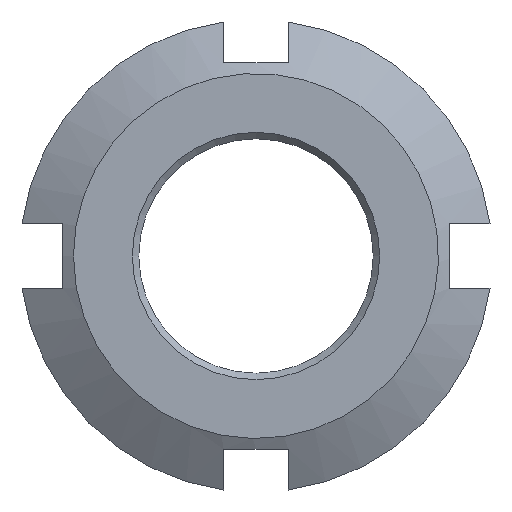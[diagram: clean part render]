
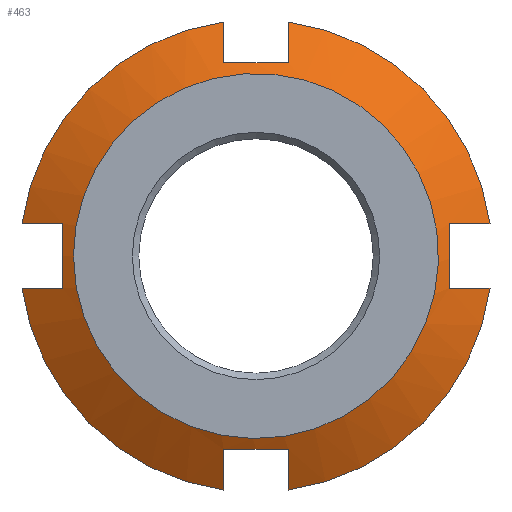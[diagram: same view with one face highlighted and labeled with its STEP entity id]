
A CAD part, left-side view. The second image highlights one B-rep face of the part: STEP entity #463.
In plain terms, the highlighted conical face has half-angle 60 degrees and reference radius 9.75 mm.
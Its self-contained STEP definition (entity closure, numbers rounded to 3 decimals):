
#15=(
BOUNDED_CURVE()
B_SPLINE_CURVE(2,(#701,#702,#703),.UNSPECIFIED.,.F.,.F.)
B_SPLINE_CURVE_WITH_KNOTS((3,3),(0.,0.218),.UNSPECIFIED.)
CURVE()
GEOMETRIC_REPRESENTATION_ITEM()
RATIONAL_B_SPLINE_CURVE((1.,1.004,1.))
REPRESENTATION_ITEM('')
);
#16=(
BOUNDED_CURVE()
B_SPLINE_CURVE(2,(#733,#734,#735),.UNSPECIFIED.,.F.,.F.)
B_SPLINE_CURVE_WITH_KNOTS((3,3),(0.,0.218),.UNSPECIFIED.)
CURVE()
GEOMETRIC_REPRESENTATION_ITEM()
RATIONAL_B_SPLINE_CURVE((1.,1.004,1.))
REPRESENTATION_ITEM('')
);
#17=(
BOUNDED_CURVE()
B_SPLINE_CURVE(2,(#765,#766,#767),.UNSPECIFIED.,.F.,.F.)
B_SPLINE_CURVE_WITH_KNOTS((3,3),(0.,0.218),.UNSPECIFIED.)
CURVE()
GEOMETRIC_REPRESENTATION_ITEM()
RATIONAL_B_SPLINE_CURVE((1.,1.004,1.))
REPRESENTATION_ITEM('')
);
#18=(
BOUNDED_CURVE()
B_SPLINE_CURVE(2,(#797,#798,#799),.UNSPECIFIED.,.F.,.F.)
B_SPLINE_CURVE_WITH_KNOTS((3,3),(0.,0.218),.UNSPECIFIED.)
CURVE()
GEOMETRIC_REPRESENTATION_ITEM()
RATIONAL_B_SPLINE_CURVE((1.,1.004,1.))
REPRESENTATION_ITEM('')
);
#19=(
BOUNDED_CURVE()
B_SPLINE_CURVE(2,(#805,#806,#807),.UNSPECIFIED.,.F.,.F.)
B_SPLINE_CURVE_WITH_KNOTS((3,3),(0.,0.218),.UNSPECIFIED.)
CURVE()
GEOMETRIC_REPRESENTATION_ITEM()
RATIONAL_B_SPLINE_CURVE((1.,1.004,1.))
REPRESENTATION_ITEM('')
);
#20=(
BOUNDED_CURVE()
B_SPLINE_CURVE(2,(#810,#811,#812),.UNSPECIFIED.,.F.,.F.)
B_SPLINE_CURVE_WITH_KNOTS((3,3),(0.475,0.811),
 .UNSPECIFIED.)
CURVE()
GEOMETRIC_REPRESENTATION_ITEM()
RATIONAL_B_SPLINE_CURVE((1.104,1.119,1.104))
REPRESENTATION_ITEM('')
);
#21=(
BOUNDED_CURVE()
B_SPLINE_CURVE(2,(#814,#815,#816),.UNSPECIFIED.,.F.,.F.)
B_SPLINE_CURVE_WITH_KNOTS((3,3),(0.475,0.811),
 .UNSPECIFIED.)
CURVE()
GEOMETRIC_REPRESENTATION_ITEM()
RATIONAL_B_SPLINE_CURVE((1.104,1.119,1.104))
REPRESENTATION_ITEM('')
);
#22=(
BOUNDED_CURVE()
B_SPLINE_CURVE(2,(#821,#822,#823),.UNSPECIFIED.,.F.,.F.)
B_SPLINE_CURVE_WITH_KNOTS((3,3),(0.,0.218),.UNSPECIFIED.)
CURVE()
GEOMETRIC_REPRESENTATION_ITEM()
RATIONAL_B_SPLINE_CURVE((1.,1.004,1.))
REPRESENTATION_ITEM('')
);
#23=(
BOUNDED_CURVE()
B_SPLINE_CURVE(2,(#826,#827,#828),.UNSPECIFIED.,.F.,.F.)
B_SPLINE_CURVE_WITH_KNOTS((3,3),(0.475,0.811),
 .UNSPECIFIED.)
CURVE()
GEOMETRIC_REPRESENTATION_ITEM()
RATIONAL_B_SPLINE_CURVE((1.104,1.119,1.104))
REPRESENTATION_ITEM('')
);
#24=(
BOUNDED_CURVE()
B_SPLINE_CURVE(2,(#841,#842,#843),.UNSPECIFIED.,.F.,.F.)
B_SPLINE_CURVE_WITH_KNOTS((3,3),(0.08,0.291),
 .UNSPECIFIED.)
CURVE()
GEOMETRIC_REPRESENTATION_ITEM()
RATIONAL_B_SPLINE_CURVE((1.003,1.006,1.))
REPRESENTATION_ITEM('')
);
#25=(
BOUNDED_CURVE()
B_SPLINE_CURVE(2,(#847,#848,#849),.UNSPECIFIED.,.F.,.F.)
B_SPLINE_CURVE_WITH_KNOTS((3,3),(0.475,0.811),
 .UNSPECIFIED.)
CURVE()
GEOMETRIC_REPRESENTATION_ITEM()
RATIONAL_B_SPLINE_CURVE((1.104,1.119,1.104))
REPRESENTATION_ITEM('')
);
#26=(
BOUNDED_CURVE()
B_SPLINE_CURVE(2,(#852,#853,#854),.UNSPECIFIED.,.F.,.F.)
B_SPLINE_CURVE_WITH_KNOTS((3,3),(0.,0.211),.UNSPECIFIED.)
CURVE()
GEOMETRIC_REPRESENTATION_ITEM()
RATIONAL_B_SPLINE_CURVE((1.,1.006,1.003))
REPRESENTATION_ITEM('')
);
#119=FACE_BOUND('',#177,.T.);
#145=FACE_OUTER_BOUND('',#176,.T.);
#176=EDGE_LOOP('',(#418,#419,#420,#421,#422,#423,#424,#425,#426,#427,#428,
#429,#430,#431,#432,#433));
#177=EDGE_LOOP('',(#434));
#181=CIRCLE('',#472,8.5);
#191=CIRCLE('',#498,11.);
#192=CIRCLE('',#500,11.);
#193=CIRCLE('',#502,11.);
#194=CIRCLE('',#507,11.);
#198=VERTEX_POINT('',#635);
#218=VERTEX_POINT('',#698);
#219=VERTEX_POINT('',#700);
#222=VERTEX_POINT('',#730);
#223=VERTEX_POINT('',#732);
#226=VERTEX_POINT('',#762);
#227=VERTEX_POINT('',#764);
#230=VERTEX_POINT('',#794);
#231=VERTEX_POINT('',#796);
#232=VERTEX_POINT('',#802);
#233=VERTEX_POINT('',#804);
#234=VERTEX_POINT('',#818);
#235=VERTEX_POINT('',#820);
#236=VERTEX_POINT('',#830);
#237=VERTEX_POINT('',#834);
#238=VERTEX_POINT('',#840);
#239=VERTEX_POINT('',#846);
#243=EDGE_CURVE('',#198,#198,#181,.T.);
#265=EDGE_CURVE('',#219,#218,#15,.T.);
#271=EDGE_CURVE('',#223,#222,#16,.T.);
#277=EDGE_CURVE('',#227,#226,#17,.T.);
#283=EDGE_CURVE('',#231,#230,#18,.T.);
#286=EDGE_CURVE('',#233,#232,#19,.T.);
#288=EDGE_CURVE('',#222,#233,#20,.T.);
#289=EDGE_CURVE('',#226,#231,#21,.T.);
#291=EDGE_CURVE('',#235,#234,#22,.T.);
#293=EDGE_CURVE('',#218,#235,#23,.T.);
#294=EDGE_CURVE('',#236,#219,#191,.T.);
#297=EDGE_CURVE('',#230,#237,#192,.T.);
#298=EDGE_CURVE('',#234,#223,#193,.T.);
#299=EDGE_CURVE('',#238,#236,#24,.T.);
#301=EDGE_CURVE('',#239,#238,#25,.T.);
#303=EDGE_CURVE('',#237,#239,#26,.T.);
#304=EDGE_CURVE('',#232,#227,#194,.T.);
#418=ORIENTED_EDGE('',*,*,#286,.T.);
#419=ORIENTED_EDGE('',*,*,#304,.T.);
#420=ORIENTED_EDGE('',*,*,#277,.T.);
#421=ORIENTED_EDGE('',*,*,#289,.T.);
#422=ORIENTED_EDGE('',*,*,#283,.T.);
#423=ORIENTED_EDGE('',*,*,#297,.T.);
#424=ORIENTED_EDGE('',*,*,#303,.T.);
#425=ORIENTED_EDGE('',*,*,#301,.T.);
#426=ORIENTED_EDGE('',*,*,#299,.T.);
#427=ORIENTED_EDGE('',*,*,#294,.T.);
#428=ORIENTED_EDGE('',*,*,#265,.T.);
#429=ORIENTED_EDGE('',*,*,#293,.T.);
#430=ORIENTED_EDGE('',*,*,#291,.T.);
#431=ORIENTED_EDGE('',*,*,#298,.T.);
#432=ORIENTED_EDGE('',*,*,#271,.T.);
#433=ORIENTED_EDGE('',*,*,#288,.T.);
#434=ORIENTED_EDGE('',*,*,#243,.T.);
#437=CONICAL_SURFACE('',#508,9.75,60.);
#463=ADVANCED_FACE('',(#145,#119),#437,.T.);
#472=AXIS2_PLACEMENT_3D('',#636,#523,#524);
#498=AXIS2_PLACEMENT_3D('',#831,#599,#600);
#500=AXIS2_PLACEMENT_3D('',#836,#605,#606);
#502=AXIS2_PLACEMENT_3D('',#838,#609,#610);
#507=AXIS2_PLACEMENT_3D('',#856,#621,#622);
#508=AXIS2_PLACEMENT_3D('',#857,#623,#624);
#523=DIRECTION('center_axis',(1.,0.,0.));
#524=DIRECTION('ref_axis',(0.,-1.,0.));
#599=DIRECTION('center_axis',(-1.,0.,0.));
#600=DIRECTION('ref_axis',(0.,-1.,0.));
#605=DIRECTION('center_axis',(-1.,0.,0.));
#606=DIRECTION('ref_axis',(0.,-1.,0.));
#609=DIRECTION('center_axis',(-1.,0.,0.));
#610=DIRECTION('ref_axis',(0.,-1.,0.));
#621=DIRECTION('center_axis',(-1.,0.,0.));
#622=DIRECTION('ref_axis',(0.,-1.,0.));
#623=DIRECTION('center_axis',(1.,0.,0.));
#624=DIRECTION('ref_axis',(0.,-1.,0.));
#635=CARTESIAN_POINT('',(0.,8.5,0.));
#636=CARTESIAN_POINT('Origin',(0.,0.,0.));
#698=CARTESIAN_POINT('',(0.36,1.5,-9.));
#700=CARTESIAN_POINT('',(1.443,1.5,-10.897));
#701=CARTESIAN_POINT('Ctrl Pts',(1.443,1.5,-10.897));
#702=CARTESIAN_POINT('Ctrl Pts',(0.85,1.5,-9.86));
#703=CARTESIAN_POINT('Ctrl Pts',(0.36,1.5,-9.));
#730=CARTESIAN_POINT('',(0.36,-9.,-1.5));
#732=CARTESIAN_POINT('',(1.443,-10.897,-1.5));
#733=CARTESIAN_POINT('Ctrl Pts',(1.443,-10.897,-1.5));
#734=CARTESIAN_POINT('Ctrl Pts',(0.85,-9.86,-1.5));
#735=CARTESIAN_POINT('Ctrl Pts',(0.36,-9.,-1.5));
#762=CARTESIAN_POINT('',(0.36,-1.5,9.));
#764=CARTESIAN_POINT('',(1.443,-1.5,10.897));
#765=CARTESIAN_POINT('Ctrl Pts',(1.443,-1.5,10.897));
#766=CARTESIAN_POINT('Ctrl Pts',(0.85,-1.5,9.86));
#767=CARTESIAN_POINT('Ctrl Pts',(0.36,-1.5,9.));
#794=CARTESIAN_POINT('',(1.443,1.5,10.897));
#796=CARTESIAN_POINT('',(0.36,1.5,9.));
#797=CARTESIAN_POINT('Ctrl Pts',(0.36,1.5,9.));
#798=CARTESIAN_POINT('Ctrl Pts',(0.85,1.5,9.86));
#799=CARTESIAN_POINT('Ctrl Pts',(1.443,1.5,10.897));
#802=CARTESIAN_POINT('',(1.443,-10.897,1.5));
#804=CARTESIAN_POINT('',(0.36,-9.,1.5));
#805=CARTESIAN_POINT('Ctrl Pts',(0.36,-9.,1.5));
#806=CARTESIAN_POINT('Ctrl Pts',(0.85,-9.86,1.5));
#807=CARTESIAN_POINT('Ctrl Pts',(1.443,-10.897,1.5));
#810=CARTESIAN_POINT('Ctrl Pts',(0.36,-9.,-1.5));
#811=CARTESIAN_POINT('Ctrl Pts',(0.218,-9.,0.));
#812=CARTESIAN_POINT('Ctrl Pts',(0.36,-9.,1.5));
#814=CARTESIAN_POINT('Ctrl Pts',(0.36,-1.5,9.));
#815=CARTESIAN_POINT('Ctrl Pts',(0.218,0.,
9.));
#816=CARTESIAN_POINT('Ctrl Pts',(0.36,1.5,9.));
#818=CARTESIAN_POINT('',(1.443,-1.5,-10.897));
#820=CARTESIAN_POINT('',(0.36,-1.5,-9.));
#821=CARTESIAN_POINT('Ctrl Pts',(0.36,-1.5,-9.));
#822=CARTESIAN_POINT('Ctrl Pts',(0.85,-1.5,-9.86));
#823=CARTESIAN_POINT('Ctrl Pts',(1.443,-1.5,-10.897));
#826=CARTESIAN_POINT('Ctrl Pts',(0.36,1.5,-9.));
#827=CARTESIAN_POINT('Ctrl Pts',(0.218,0.,
-9.));
#828=CARTESIAN_POINT('Ctrl Pts',(0.36,-1.5,-9.));
#830=CARTESIAN_POINT('',(1.443,10.897,-1.5));
#831=CARTESIAN_POINT('Origin',(1.443,0.,0.));
#834=CARTESIAN_POINT('',(1.443,10.897,1.5));
#836=CARTESIAN_POINT('Origin',(1.443,0.,0.));
#838=CARTESIAN_POINT('Origin',(1.443,0.,0.));
#840=CARTESIAN_POINT('',(0.36,9.,-1.5));
#841=CARTESIAN_POINT('Ctrl Pts',(0.36,9.,-1.5));
#842=CARTESIAN_POINT('Ctrl Pts',(0.85,9.86,-1.5));
#843=CARTESIAN_POINT('Ctrl Pts',(1.443,10.897,-1.5));
#846=CARTESIAN_POINT('',(0.36,9.,1.5));
#847=CARTESIAN_POINT('Ctrl Pts',(0.36,9.,1.5));
#848=CARTESIAN_POINT('Ctrl Pts',(0.218,9.,0.));
#849=CARTESIAN_POINT('Ctrl Pts',(0.36,9.,-1.5));
#852=CARTESIAN_POINT('Ctrl Pts',(1.443,10.897,1.5));
#853=CARTESIAN_POINT('Ctrl Pts',(0.85,9.86,1.5));
#854=CARTESIAN_POINT('Ctrl Pts',(0.36,9.,1.5));
#856=CARTESIAN_POINT('Origin',(1.443,0.,0.));
#857=CARTESIAN_POINT('Origin',(0.722,0.,0.));
